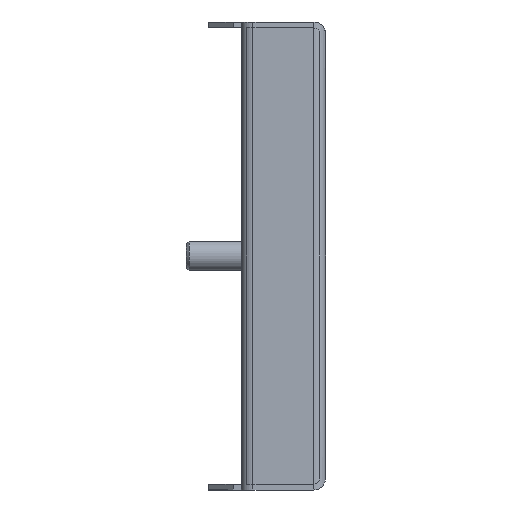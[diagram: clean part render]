
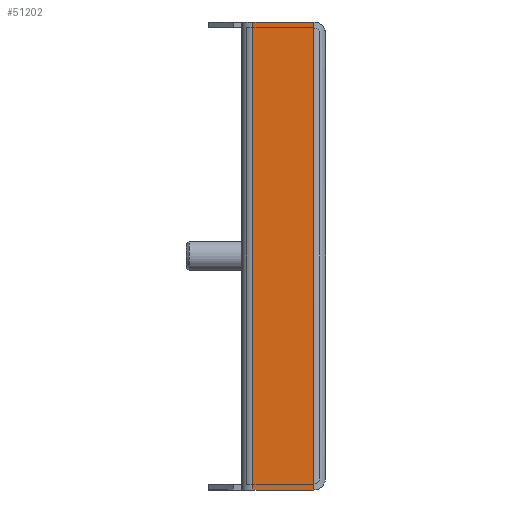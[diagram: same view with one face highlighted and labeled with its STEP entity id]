
A CAD part, left-side view. The second image highlights one B-rep face of the part: STEP entity #51202.
In plain terms, the highlighted planar face has unit normal (-1, 0, 0).
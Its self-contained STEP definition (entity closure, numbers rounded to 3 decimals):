
#2085 = FACE_OUTER_BOUND ( 'NONE', #8732, .T. ) ;
#2088 = AXIS2_PLACEMENT_3D ( 'NONE', #9665, #9666, #9667 ) ;
#3499 = VECTOR ( 'NONE', #10680, 1000. ) ;
#3543 = VECTOR ( 'NONE', #10722, 1000. ) ;
#3550 = VECTOR ( 'NONE', #10731, 1000. ) ;
#3554 = VECTOR ( 'NONE', #10734, 1000. ) ;
#8397 = VERTEX_POINT ( 'NONE', #41132 ) ;
#8398 = VERTEX_POINT ( 'NONE', #41133 ) ;
#8407 = VERTEX_POINT ( 'NONE', #41142 ) ;
#8408 = VERTEX_POINT ( 'NONE', #41143 ) ;
#8732 = EDGE_LOOP ( 'NONE', ( #49958, #49959, #49957, #49960 ) ) ;
#9664 = PLANE ( 'NONE',  #2088 ) ;
#9665 = CARTESIAN_POINT ( 'NONE',  ( -429., 0., 47. ) ) ;
#9666 = DIRECTION ( 'NONE',  ( -1., 0., 0. ) ) ;
#9667 = DIRECTION ( 'NONE',  ( 0., 0., 1. ) ) ;
#10678 = LINE ( 'NONE', #10679, #3499 ) ;
#10679 = CARTESIAN_POINT ( 'NONE',  ( -429., 2.4, 47. ) ) ;
#10680 = DIRECTION ( 'NONE',  ( 0., 0., -1. ) ) ;
#10720 = LINE ( 'NONE', #10721, #3543 ) ;
#10721 = CARTESIAN_POINT ( 'NONE',  ( -429., 14.6, 47. ) ) ;
#10722 = DIRECTION ( 'NONE',  ( 0., 0., -1. ) ) ;
#10729 = LINE ( 'NONE', #10730, #3550 ) ;
#10730 = CARTESIAN_POINT ( 'NONE',  ( -429., 0., -47. ) ) ;
#10731 = DIRECTION ( 'NONE',  ( 0., 1., 0. ) ) ;
#10732 = LINE ( 'NONE', #10733, #3554 ) ;
#10733 = CARTESIAN_POINT ( 'NONE',  ( -429., 0., 47. ) ) ;
#10734 = DIRECTION ( 'NONE',  ( 0., 1., 0. ) ) ;
#41132 = CARTESIAN_POINT ( 'NONE',  ( -429., 2.4, -47. ) ) ;
#41133 = CARTESIAN_POINT ( 'NONE',  ( -429., 2.4, 47. ) ) ;
#41142 = CARTESIAN_POINT ( 'NONE',  ( -429., 14.6, -47. ) ) ;
#41143 = CARTESIAN_POINT ( 'NONE',  ( -429., 14.6, 47. ) ) ;
#49957 = ORIENTED_EDGE ( 'NONE', *, *, #51545, .T. ) ;
#49958 = ORIENTED_EDGE ( 'NONE', *, *, #51544, .F. ) ;
#49959 = ORIENTED_EDGE ( 'NONE', *, *, #51528, .F. ) ;
#49960 = ORIENTED_EDGE ( 'NONE', *, *, #51541, .T. ) ;
#51202 = ADVANCED_FACE ( 'NONE', ( #2085 ), #9664, .T. ) ;
#51528 = EDGE_CURVE ( 'NONE', #8398, #8397, #10678, .T. ) ;
#51541 = EDGE_CURVE ( 'NONE', #8408, #8407, #10720, .T. ) ;
#51544 = EDGE_CURVE ( 'NONE', #8397, #8407, #10729, .T. ) ;
#51545 = EDGE_CURVE ( 'NONE', #8398, #8408, #10732, .T. ) ;
